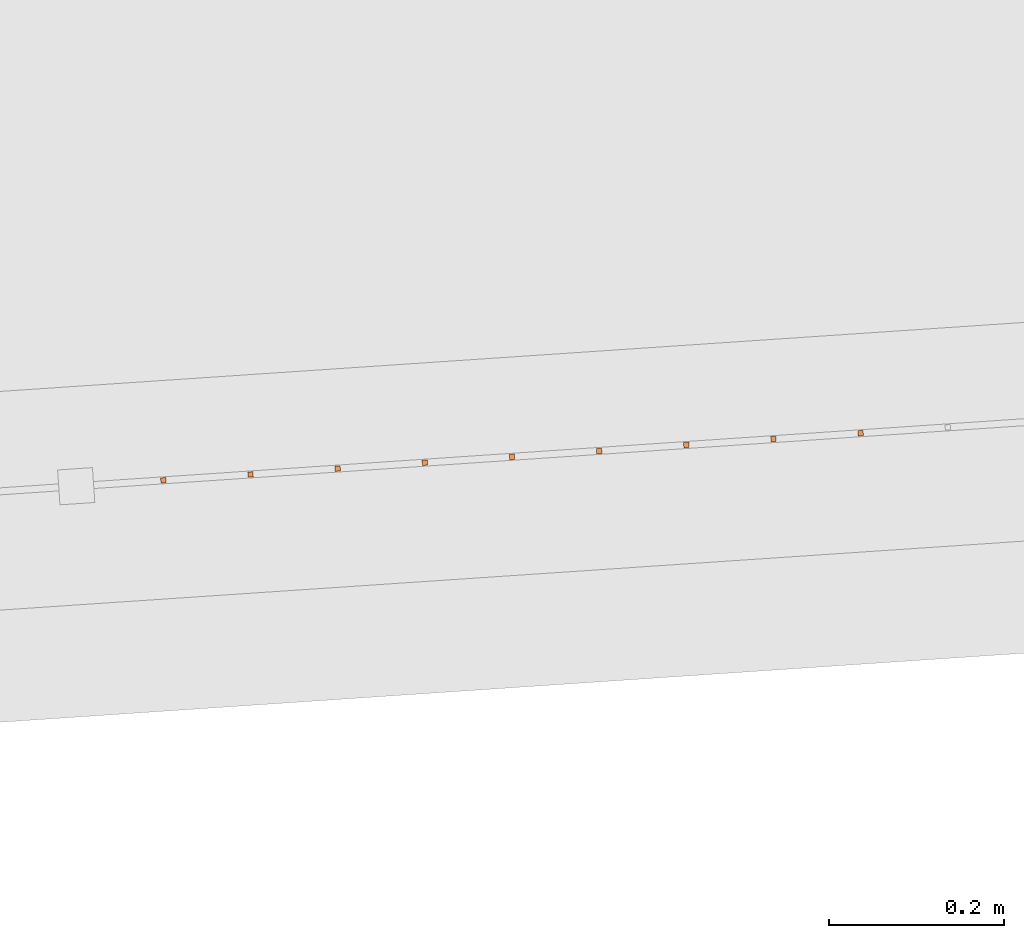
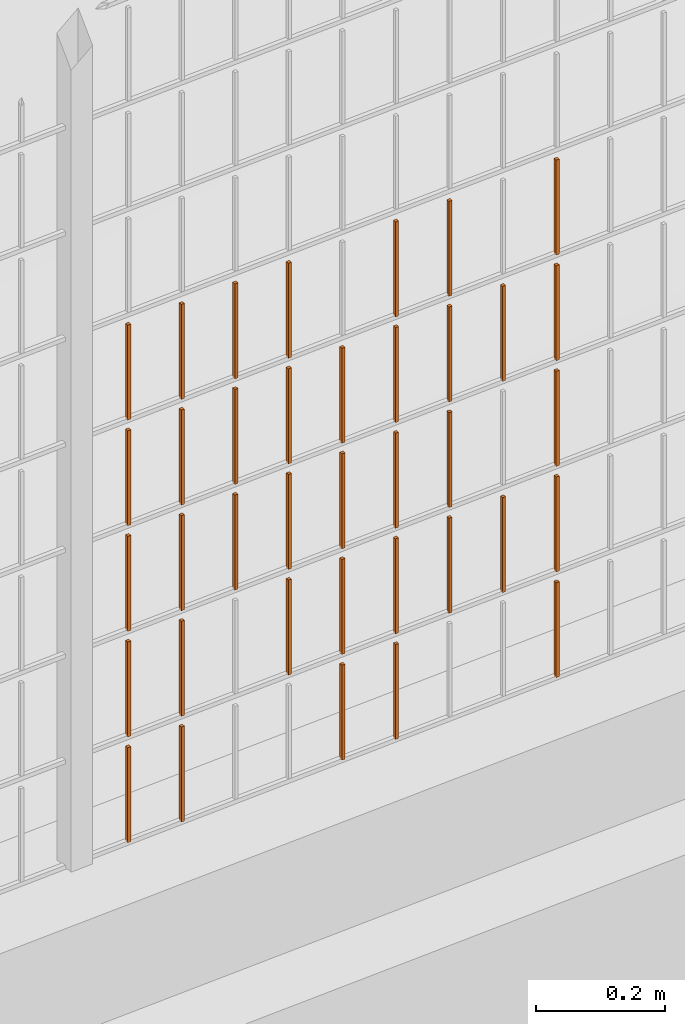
# One storey, part 140 of 1809: 37 proxies, 1 element without a shape of its own.
"""IFC2X3 building model written with IfcOpenShell, lengths in millimetres."""

from ifc_helpers import new_model, entity, si_unit, converted_unit, derived_unit, money_unit, direction, frame, origin_with_axes, place, context, subcontext, project, spatial, faceted_brep, source, transform, mapped, material, type_object, element, aggregate, save


model = new_model("IFC2X3")

# Units and contexts
model_context = context("Model", 3, precision=0.01, world=origin_with_axes(), true_north=direction((0.0, 1.0)))
body_context = subcontext(model_context, "Body", "Model", "MODEL_VIEW")
ifc_project = project(units=[si_unit("LENGTHUNIT", "METRE", prefix="MILLI"), si_unit("AREAUNIT", "SQUARE_METRE"), si_unit("VOLUMEUNIT", "CUBIC_METRE"), converted_unit("PLANEANGLEUNIT", "DEGREE", entity("IfcPlaneAngleMeasure", 0.0174532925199), si_unit("PLANEANGLEUNIT", "RADIAN"), dimensions=[0, 0, 0, 0, 0, 0, 0]), si_unit("SOLIDANGLEUNIT", "STERADIAN"), money_unit("EUR"), converted_unit("TIMEUNIT", "Year", entity("IfcTimeMeasure", 31556926.0), si_unit("TIMEUNIT", "SECOND"), dimensions=[0, 0, 1, 0, 0, 0, 0]), si_unit("MASSUNIT", "GRAM", prefix="KILO"), si_unit("THERMODYNAMICTEMPERATUREUNIT", "DEGREE_CELSIUS"), si_unit("LUMINOUSINTENSITYUNIT", "LUMEN"), si_unit("ENERGYUNIT", "JOULE", prefix="MEGA"), derived_unit("THERMALCONDUCTANCEUNIT", [(si_unit("POWERUNIT", "WATT"), 1), (si_unit("LENGTHUNIT", "METRE"), -1), (si_unit("THERMODYNAMICTEMPERATUREUNIT", "KELVIN"), -1)]), derived_unit("SPECIFICHEATCAPACITYUNIT", [(si_unit("ENERGYUNIT", "JOULE"), 1), (si_unit("MASSUNIT", "GRAM", prefix="KILO"), -1), (si_unit("THERMODYNAMICTEMPERATUREUNIT", "KELVIN"), -1)]), derived_unit("MASSDENSITYUNIT", [(si_unit("MASSUNIT", "GRAM", prefix="KILO"), 1), (si_unit("VOLUMEUNIT", "CUBIC_METRE"), -1)])], contexts=[model_context])

# Site, building, storey
site_placement = place(None, origin_with_axes())
site = spatial("IfcSite", under=ifc_project, at=site_placement, Name="Politse- ja Piirivalveameti ning Päästeameti ühishoone", CompositionType="ELEMENT")
building_placement = place(site_placement, origin_with_axes())
building = spatial("IfcBuilding", under=site, at=building_placement, Name="Politse- ja Piirivalveameti ning Päästeameti ühishoone", CompositionType="ELEMENT")
storey_placement = place(building_placement, origin_with_axes())
storey = spatial("IfcBuildingStorey", under=building, at=storey_placement, Name="Esimene korrus", CompositionType="ELEMENT", Elevation=0.0)

# Proxies
building_element_proxy_type_1 = type_object("IfcBuildingElementProxyType", Name="Railing Type", PredefinedType="NOTDEFINED")
proxy_1_placement = place(storey_placement, frame((89252.001212, -29183.4766571, 203.661247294), z_axis=(0.0, 0.0, 1.0), x_axis=(1.0, 0.0, 0.0)))
proxy_1 = element("IfcBuildingElementProxy", 1, at=proxy_1_placement, inside=storey, type_object=building_element_proxy_type_1, Name="PIIRDEAED")
ifc_material = material(Name="ET-03_Raud")
building_element_proxy_type_2 = type_object("IfcBuildingElementProxyType", Name="IfcBuildingElementProxy", PredefinedType="NOTDEFINED")
shared_shape_1 = source(origin_with_axes(), body_context, "Body", "Brep", [
    faceted_brep([(3.0, 3.0, -0.000752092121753), (-3.0, 3.0, -0.000752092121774), (-3.0, 3.0, 179.99926046), (3.0, 3.0, 179.99926046), (3.0, -3.0, 0.000752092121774), (-3.0, -3.0, 0.000752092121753), (-3.0, -3.0, 180.000764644), (3.0, -3.0, 180.000764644)], [[[0, 1, 2, 3]], [[0, 4, 5, 1]], [[1, 5, 6, 2]], [[3, 2, 6, 7]], [[4, 0, 3, 7]], [[5, 4, 7, 6]]]),
])
proxy_2_placement = place(proxy_1_placement, frame((-86928.6080785, -23169.4741806, 5.39195363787), z_axis=(0.0, 0.0, 1.0), x_axis=(1.0, 0.0, 0.0)))
proxy_2 = element("IfcBuildingElementProxy", 2, at=proxy_2_placement, type_object=building_element_proxy_type_2, material=ifc_material, Name="BALUSTER - 001", context=body_context, shape_type="MappedRepresentation", body=[
    mapped(shared_shape_1, transform((0.0, 0.0, 0.0), x_axis=(-0.0673926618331, 0.997726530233, 0.0), y_axis=(-0.997726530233, -0.0673926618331, 0.0), z_axis=(0.0, 0.0, 1.0))),
])
shared_shape_2 = source(origin_with_axes(), body_context, "Body", "Brep", [
    faceted_brep([(3.0, 3.0, -0.000752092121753), (-3.0, 3.0, -0.000752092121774), (-3.0, 3.0, 179.99926046), (3.0, 3.0, 179.99926046), (3.0, -3.0, 0.000752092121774), (-3.0, -3.0, 0.000752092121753), (-3.0, -3.0, 180.000764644), (3.0, -3.0, 180.000764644)], [[[0, 1, 2, 3]], [[0, 4, 5, 1]], [[1, 5, 6, 2]], [[3, 2, 6, 7]], [[4, 0, 3, 7]], [[5, 4, 7, 6]]]),
])
proxy_3_placement = place(proxy_1_placement, frame((-86230.1995073, -23122.2993173, 5.56744179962), z_axis=(0.0, 0.0, 1.0), x_axis=(1.0, 0.0, 0.0)))
proxy_3 = element("IfcBuildingElementProxy", 3, at=proxy_3_placement, type_object=building_element_proxy_type_2, material=ifc_material, Name="BALUSTER - 001", context=body_context, shape_type="MappedRepresentation", body=[
    mapped(shared_shape_2, transform((0.0, 0.0, 0.0), x_axis=(-0.0673926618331, 0.997726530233, 0.0), y_axis=(-0.997726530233, -0.0673926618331, 0.0), z_axis=(0.0, 0.0, 1.0))),
])
shared_shape_3 = source(origin_with_axes(), body_context, "Body", "Brep", [
    faceted_brep([(3.0, 3.0, -0.000752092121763), (-3.0, 3.0, -0.000752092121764), (-3.0, 3.0, 179.99926046), (3.0, 3.0, 179.99926046), (3.0, -3.0, 0.000752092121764), (-3.0, -3.0, 0.000752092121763), (-3.0, -3.0, 180.000764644), (3.0, -3.0, 180.000764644)], [[[0, 1, 2, 3]], [[0, 4, 5, 1]], [[1, 5, 6, 2]], [[3, 2, 6, 7]], [[4, 0, 3, 7]], [[5, 4, 7, 6]]]),
])
proxy_4_placement = place(proxy_1_placement, frame((-86529.5174664, -23142.5171158, 5.49223258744), z_axis=(0.0, 0.0, 1.0), x_axis=(1.0, 0.0, 0.0)))
proxy_4 = element("IfcBuildingElementProxy", 4, at=proxy_4_placement, type_object=building_element_proxy_type_2, material=ifc_material, Name="BALUSTER - 001", context=body_context, shape_type="MappedRepresentation", body=[
    mapped(shared_shape_3, transform((0.0, 0.0, 0.0), x_axis=(-0.0673926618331, 0.997726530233, 0.0), y_axis=(-0.997726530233, -0.0673926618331, 0.0), z_axis=(0.0, 0.0, 1.0))),
])
shared_shape_4 = source(origin_with_axes(), body_context, "Body", "Brep", [
    faceted_brep([(3.0, 3.0, -0.000752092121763), (-3.0, 3.0, -0.000752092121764), (-3.0, 3.0, 179.99926046), (3.0, 3.0, 179.99926046), (3.0, -3.0, 0.000752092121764), (-3.0, -3.0, 0.000752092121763), (-3.0, -3.0, 180.000764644), (3.0, -3.0, 180.000764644)], [[[0, 1, 2, 3]], [[0, 4, 5, 1]], [[1, 5, 6, 2]], [[3, 2, 6, 7]], [[4, 0, 3, 7]], [[5, 4, 7, 6]]]),
])
proxy_5_placement = place(proxy_1_placement, frame((-86629.2901194, -23149.256382, 5.46716285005), z_axis=(0.0, 0.0, 1.0), x_axis=(1.0, 0.0, 0.0)))
proxy_5 = element("IfcBuildingElementProxy", 5, at=proxy_5_placement, type_object=building_element_proxy_type_2, material=ifc_material, Name="BALUSTER - 001", context=body_context, shape_type="MappedRepresentation", body=[
    mapped(shared_shape_4, transform((0.0, 0.0, 0.0), x_axis=(-0.0673926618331, 0.997726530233, 0.0), y_axis=(-0.997726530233, -0.0673926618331, 0.0), z_axis=(0.0, 0.0, 1.0))),
])
proxy_6_placement = place(proxy_1_placement, frame((-86629.2901194, -23149.256382, 205.46716285), z_axis=(0.0, 0.0, 1.0), x_axis=(1.0, 0.0, 0.0)))
proxy_6 = element("IfcBuildingElementProxy", 6, at=proxy_6_placement, type_object=building_element_proxy_type_2, material=ifc_material, Name="BALUSTER - 001", context=body_context, shape_type="MappedRepresentation", body=[
    mapped(shared_shape_4, transform((0.0, 0.0, 0.0), x_axis=(-0.0673926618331, 0.997726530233, 0.0), y_axis=(-0.997726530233, -0.0673926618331, 0.0), z_axis=(0.0, 0.0, 1.0))),
])
shared_shape_5 = source(origin_with_axes(), body_context, "Body", "Brep", [
    faceted_brep([(3.0, 3.0, -0.000752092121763), (-3.0, 3.0, -0.000752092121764), (-3.0, 3.0, 179.99926046), (3.0, 3.0, 179.99926046), (3.0, -3.0, 0.000752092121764), (-3.0, -3.0, 0.000752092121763), (-3.0, -3.0, 180.000764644), (3.0, -3.0, 180.000764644)], [[[0, 1, 2, 3]], [[0, 4, 5, 1]], [[1, 5, 6, 2]], [[3, 2, 6, 7]], [[4, 0, 3, 7]], [[5, 4, 7, 6]]]),
])
proxy_7_placement = place(proxy_1_placement, frame((-87028.3807315, -23176.2134468, 5.36688390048), z_axis=(0.0, 0.0, 1.0), x_axis=(1.0, 0.0, 0.0)))
proxy_7 = element("IfcBuildingElementProxy", 7, at=proxy_7_placement, type_object=building_element_proxy_type_2, material=ifc_material, Name="BALUSTER - 001", context=body_context, shape_type="MappedRepresentation", body=[
    mapped(shared_shape_5, transform((0.0, 0.0, 0.0), x_axis=(-0.0673926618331, 0.997726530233, 0.0), y_axis=(-0.997726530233, -0.0673926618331, 0.0), z_axis=(0.0, 0.0, 1.0))),
])
shared_shape_6 = source(origin_with_axes(), body_context, "Body", "Brep", [
    faceted_brep([(3.0, 3.0, -0.000752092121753), (-3.0, 3.0, -0.000752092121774), (-3.0, 3.0, 179.99926046), (3.0, 3.0, 179.99926046), (3.0, -3.0, 0.000752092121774), (-3.0, -3.0, 0.000752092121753), (-3.0, -3.0, 180.000764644), (3.0, -3.0, 180.000764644)], [[[0, 1, 2, 3]], [[0, 4, 5, 1]], [[1, 5, 6, 2]], [[3, 2, 6, 7]], [[4, 0, 3, 7]], [[5, 4, 7, 6]]]),
])
proxy_8_placement = place(proxy_1_placement, frame((-86230.1995073, -23122.2993173, 205.5674418), z_axis=(0.0, 0.0, 1.0), x_axis=(1.0, 0.0, 0.0)))
proxy_8 = element("IfcBuildingElementProxy", 8, at=proxy_8_placement, type_object=building_element_proxy_type_2, material=ifc_material, Name="BALUSTER - 001", context=body_context, shape_type="MappedRepresentation", body=[
    mapped(shared_shape_6, transform((0.0, 0.0, 0.0), x_axis=(-0.0673926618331, 0.997726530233, 0.0), y_axis=(-0.997726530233, -0.0673926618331, 0.0), z_axis=(0.0, 0.0, 1.0))),
])
proxy_9_placement = place(proxy_1_placement, frame((-86429.7448134, -23135.7778497, 205.517302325), z_axis=(0.0, 0.0, 1.0), x_axis=(1.0, 0.0, 0.0)))
proxy_9 = element("IfcBuildingElementProxy", 9, at=proxy_9_placement, type_object=building_element_proxy_type_2, material=ifc_material, Name="BALUSTER - 001", context=body_context, shape_type="MappedRepresentation", body=[
    mapped(shared_shape_6, transform((0.0, 0.0, 0.0), x_axis=(-0.0673926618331, 0.997726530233, 0.0), y_axis=(-0.997726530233, -0.0673926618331, 0.0), z_axis=(0.0, 0.0, 1.0))),
])
proxy_10_placement = place(proxy_1_placement, frame((-86928.6080785, -23169.4741806, 205.391953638), z_axis=(0.0, 0.0, 1.0), x_axis=(1.0, 0.0, 0.0)))
proxy_10 = element("IfcBuildingElementProxy", 10, at=proxy_10_placement, type_object=building_element_proxy_type_2, material=ifc_material, Name="BALUSTER - 001", context=body_context, shape_type="MappedRepresentation", body=[
    mapped(shared_shape_6, transform((0.0, 0.0, 0.0), x_axis=(-0.0673926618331, 0.997726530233, 0.0), y_axis=(-0.997726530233, -0.0673926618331, 0.0), z_axis=(0.0, 0.0, 1.0))),
])
proxy_11_placement = place(proxy_1_placement, frame((-86230.1995073, -23122.2993173, 405.5674418), z_axis=(0.0, 0.0, 1.0), x_axis=(1.0, 0.0, 0.0)))
proxy_11 = element("IfcBuildingElementProxy", 11, at=proxy_11_placement, type_object=building_element_proxy_type_2, material=ifc_material, Name="BALUSTER - 001", context=body_context, shape_type="MappedRepresentation", body=[
    mapped(shared_shape_6, transform((0.0, 0.0, 0.0), x_axis=(-0.0673926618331, 0.997726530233, 0.0), y_axis=(-0.997726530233, -0.0673926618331, 0.0), z_axis=(0.0, 0.0, 1.0))),
])
proxy_12_placement = place(proxy_1_placement, frame((-86429.7448134, -23135.7778497, 405.517302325), z_axis=(0.0, 0.0, 1.0), x_axis=(1.0, 0.0, 0.0)))
proxy_12 = element("IfcBuildingElementProxy", 12, at=proxy_12_placement, type_object=building_element_proxy_type_2, material=ifc_material, Name="BALUSTER - 001", context=body_context, shape_type="MappedRepresentation", body=[
    mapped(shared_shape_6, transform((0.0, 0.0, 0.0), x_axis=(-0.0673926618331, 0.997726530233, 0.0), y_axis=(-0.997726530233, -0.0673926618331, 0.0), z_axis=(0.0, 0.0, 1.0))),
])
proxy_13_placement = place(proxy_1_placement, frame((-86928.6080785, -23169.4741806, 405.391953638), z_axis=(0.0, 0.0, 1.0), x_axis=(1.0, 0.0, 0.0)))
proxy_13 = element("IfcBuildingElementProxy", 13, at=proxy_13_placement, type_object=building_element_proxy_type_2, material=ifc_material, Name="BALUSTER - 001", context=body_context, shape_type="MappedRepresentation", body=[
    mapped(shared_shape_6, transform((0.0, 0.0, 0.0), x_axis=(-0.0673926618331, 0.997726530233, 0.0), y_axis=(-0.997726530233, -0.0673926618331, 0.0), z_axis=(0.0, 0.0, 1.0))),
])
proxy_14_placement = place(proxy_1_placement, frame((-86230.1995073, -23122.2993173, 605.5674418), z_axis=(0.0, 0.0, 1.0), x_axis=(1.0, 0.0, 0.0)))
proxy_14 = element("IfcBuildingElementProxy", 14, at=proxy_14_placement, type_object=building_element_proxy_type_2, material=ifc_material, Name="BALUSTER - 001", context=body_context, shape_type="MappedRepresentation", body=[
    mapped(shared_shape_6, transform((0.0, 0.0, 0.0), x_axis=(-0.0673926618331, 0.997726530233, 0.0), y_axis=(-0.997726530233, -0.0673926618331, 0.0), z_axis=(0.0, 0.0, 1.0))),
])
proxy_15_placement = place(proxy_1_placement, frame((-86928.6080785, -23169.4741806, 605.391953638), z_axis=(0.0, 0.0, 1.0), x_axis=(1.0, 0.0, 0.0)))
proxy_15 = element("IfcBuildingElementProxy", 15, at=proxy_15_placement, type_object=building_element_proxy_type_2, material=ifc_material, Name="BALUSTER - 001", context=body_context, shape_type="MappedRepresentation", body=[
    mapped(shared_shape_6, transform((0.0, 0.0, 0.0), x_axis=(-0.0673926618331, 0.997726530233, 0.0), y_axis=(-0.997726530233, -0.0673926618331, 0.0), z_axis=(0.0, 0.0, 1.0))),
])
shared_shape_7 = source(origin_with_axes(), body_context, "Body", "Brep", [
    faceted_brep([(3.0, 3.0, -0.000752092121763), (-3.0, 3.0, -0.000752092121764), (-3.0, 3.0, 179.99926046), (3.0, 3.0, 179.99926046), (3.0, -3.0, 0.000752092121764), (-3.0, -3.0, 0.000752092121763), (-3.0, -3.0, 180.000764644), (3.0, -3.0, 180.000764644)], [[[0, 1, 2, 3]], [[0, 4, 5, 1]], [[1, 5, 6, 2]], [[3, 2, 6, 7]], [[4, 0, 3, 7]], [[5, 4, 7, 6]]]),
])
proxy_16_placement = place(proxy_1_placement, frame((-87028.3807315, -23176.2134468, 405.3668839), z_axis=(0.0, 0.0, 1.0), x_axis=(1.0, 0.0, 0.0)))
proxy_16 = element("IfcBuildingElementProxy", 16, at=proxy_16_placement, type_object=building_element_proxy_type_2, material=ifc_material, Name="BALUSTER - 001", context=body_context, shape_type="MappedRepresentation", body=[
    mapped(shared_shape_7, transform((0.0, 0.0, 0.0), x_axis=(-0.0673926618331, 0.997726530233, 0.0), y_axis=(-0.997726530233, -0.0673926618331, 0.0), z_axis=(0.0, 0.0, 1.0))),
])
shared_shape_8 = source(origin_with_axes(), body_context, "Body", "Brep", [
    faceted_brep([(3.0, 3.0, -0.000752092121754), (-3.0, 3.0, -0.000752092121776), (-3.0, 3.0, 179.99926046), (3.0, 3.0, 179.99926046), (3.0, -3.0, 0.000752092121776), (-3.0, -3.0, 0.000752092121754), (-3.0, -3.0, 180.000764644), (3.0, -3.0, 180.000764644)], [[[0, 1, 2, 3]], [[0, 4, 5, 1]], [[1, 5, 6, 2]], [[3, 2, 6, 7]], [[4, 0, 3, 7]], [[5, 4, 7, 6]]]),
])
proxy_17_placement = place(proxy_1_placement, frame((-86329.9721603, -23129.0385835, 205.542372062), z_axis=(0.0, 0.0, 1.0), x_axis=(1.0, 0.0, 0.0)))
proxy_17 = element("IfcBuildingElementProxy", 17, at=proxy_17_placement, type_object=building_element_proxy_type_2, material=ifc_material, Name="BALUSTER - 001", context=body_context, shape_type="MappedRepresentation", body=[
    mapped(shared_shape_8, transform((0.0, 0.0, 0.0), x_axis=(-0.0673926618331, 0.997726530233, 0.0), y_axis=(-0.997726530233, -0.0673926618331, 0.0), z_axis=(0.0, 0.0, 1.0))),
])
proxy_18_placement = place(proxy_1_placement, frame((-86329.9721603, -23129.0385835, 605.542372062), z_axis=(0.0, 0.0, 1.0), x_axis=(1.0, 0.0, 0.0)))
proxy_18 = element("IfcBuildingElementProxy", 18, at=proxy_18_placement, type_object=building_element_proxy_type_2, material=ifc_material, Name="BALUSTER - 001", context=body_context, shape_type="MappedRepresentation", body=[
    mapped(shared_shape_8, transform((0.0, 0.0, 0.0), x_axis=(-0.0673926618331, 0.997726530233, 0.0), y_axis=(-0.997726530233, -0.0673926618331, 0.0), z_axis=(0.0, 0.0, 1.0))),
])
shared_shape_9 = source(origin_with_axes(), body_context, "Body", "Brep", [
    faceted_brep([(3.0, 3.0, -0.000752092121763), (-3.0, 3.0, -0.000752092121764), (-3.0, 3.0, 179.99926046), (3.0, 3.0, 179.99926046), (3.0, -3.0, 0.000752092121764), (-3.0, -3.0, 0.000752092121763), (-3.0, -3.0, 180.000764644), (3.0, -3.0, 180.000764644)], [[[0, 1, 2, 3]], [[0, 4, 5, 1]], [[1, 5, 6, 2]], [[3, 2, 6, 7]], [[4, 0, 3, 7]], [[5, 4, 7, 6]]]),
])
proxy_19_placement = place(proxy_1_placement, frame((-86529.5174664, -23142.5171158, 205.492232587), z_axis=(0.0, 0.0, 1.0), x_axis=(1.0, 0.0, 0.0)))
proxy_19 = element("IfcBuildingElementProxy", 19, at=proxy_19_placement, type_object=building_element_proxy_type_2, material=ifc_material, Name="BALUSTER - 001", context=body_context, shape_type="MappedRepresentation", body=[
    mapped(shared_shape_9, transform((0.0, 0.0, 0.0), x_axis=(-0.0673926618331, 0.997726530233, 0.0), y_axis=(-0.997726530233, -0.0673926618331, 0.0), z_axis=(0.0, 0.0, 1.0))),
])
shared_shape_10 = source(origin_with_axes(), body_context, "Body", "Brep", [
    faceted_brep([(3.0, 3.0, -0.000752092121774), (-3.0, 3.0, -0.000752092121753), (-3.0, 3.0, 179.99926046), (3.0, 3.0, 179.99926046), (3.0, -3.0, 0.000752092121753), (-3.0, -3.0, 0.000752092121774), (-3.0, -3.0, 180.000764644), (3.0, -3.0, 180.000764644)], [[[0, 1, 2, 3]], [[0, 4, 5, 1]], [[1, 5, 6, 2]], [[3, 2, 6, 7]], [[4, 0, 3, 7]], [[5, 4, 7, 6]]]),
])
proxy_20_placement = place(proxy_1_placement, frame((-86729.0627724, -23155.9956482, 205.442093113), z_axis=(0.0, 0.0, 1.0), x_axis=(1.0, 0.0, 0.0)))
proxy_20 = element("IfcBuildingElementProxy", 20, at=proxy_20_placement, type_object=building_element_proxy_type_2, material=ifc_material, Name="BALUSTER - 001", context=body_context, shape_type="MappedRepresentation", body=[
    mapped(shared_shape_10, transform((0.0, 0.0, 0.0), x_axis=(-0.0673926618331, 0.997726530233, 0.0), y_axis=(-0.997726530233, -0.0673926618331, 0.0), z_axis=(0.0, 0.0, 1.0))),
])
shared_shape_11 = source(origin_with_axes(), body_context, "Body", "Brep", [
    faceted_brep([(3.0, 3.0, -0.000752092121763), (-3.0, 3.0, -0.000752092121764), (-3.0, 3.0, 179.99926046), (3.0, 3.0, 179.99926046), (3.0, -3.0, 0.000752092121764), (-3.0, -3.0, 0.000752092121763), (-3.0, -3.0, 180.000764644), (3.0, -3.0, 180.000764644)], [[[0, 1, 2, 3]], [[0, 4, 5, 1]], [[1, 5, 6, 2]], [[3, 2, 6, 7]], [[4, 0, 3, 7]], [[5, 4, 7, 6]]]),
])
proxy_21_placement = place(proxy_1_placement, frame((-87028.3807315, -23176.2134468, 205.3668839), z_axis=(0.0, 0.0, 1.0), x_axis=(1.0, 0.0, 0.0)))
proxy_21 = element("IfcBuildingElementProxy", 21, at=proxy_21_placement, type_object=building_element_proxy_type_2, material=ifc_material, Name="BALUSTER - 001", context=body_context, shape_type="MappedRepresentation", body=[
    mapped(shared_shape_11, transform((0.0, 0.0, 0.0), x_axis=(-0.0673926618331, 0.997726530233, 0.0), y_axis=(-0.997726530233, -0.0673926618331, 0.0), z_axis=(0.0, 0.0, 1.0))),
])
proxy_22_placement = place(proxy_1_placement, frame((-86529.5174664, -23142.5171158, 405.492232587), z_axis=(0.0, 0.0, 1.0), x_axis=(1.0, 0.0, 0.0)))
proxy_22 = element("IfcBuildingElementProxy", 22, at=proxy_22_placement, type_object=building_element_proxy_type_2, material=ifc_material, Name="BALUSTER - 001", context=body_context, shape_type="MappedRepresentation", body=[
    mapped(shared_shape_11, transform((0.0, 0.0, 0.0), x_axis=(-0.0673926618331, 0.997726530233, 0.0), y_axis=(-0.997726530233, -0.0673926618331, 0.0), z_axis=(0.0, 0.0, 1.0))),
])
proxy_23_placement = place(proxy_1_placement, frame((-86529.5174664, -23142.5171158, 605.492232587), z_axis=(0.0, 0.0, 1.0), x_axis=(1.0, 0.0, 0.0)))
proxy_23 = element("IfcBuildingElementProxy", 23, at=proxy_23_placement, type_object=building_element_proxy_type_2, material=ifc_material, Name="BALUSTER - 001", context=body_context, shape_type="MappedRepresentation", body=[
    mapped(shared_shape_11, transform((0.0, 0.0, 0.0), x_axis=(-0.0673926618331, 0.997726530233, 0.0), y_axis=(-0.997726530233, -0.0673926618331, 0.0), z_axis=(0.0, 0.0, 1.0))),
])
proxy_24_placement = place(proxy_1_placement, frame((-87028.3807315, -23176.2134468, 605.3668839), z_axis=(0.0, 0.0, 1.0), x_axis=(1.0, 0.0, 0.0)))
proxy_24 = element("IfcBuildingElementProxy", 24, at=proxy_24_placement, type_object=building_element_proxy_type_2, material=ifc_material, Name="BALUSTER - 001", context=body_context, shape_type="MappedRepresentation", body=[
    mapped(shared_shape_11, transform((0.0, 0.0, 0.0), x_axis=(-0.0673926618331, 0.997726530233, 0.0), y_axis=(-0.997726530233, -0.0673926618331, 0.0), z_axis=(0.0, 0.0, 1.0))),
])
shared_shape_12 = source(origin_with_axes(), body_context, "Body", "Brep", [
    faceted_brep([(3.0, 3.0, -0.000752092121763), (-3.0, 3.0, -0.000752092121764), (-3.0, 3.0, 179.99926046), (3.0, 3.0, 179.99926046), (3.0, -3.0, 0.000752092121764), (-3.0, -3.0, 0.000752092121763), (-3.0, -3.0, 180.000764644), (3.0, -3.0, 180.000764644)], [[[0, 1, 2, 3]], [[0, 4, 5, 1]], [[1, 5, 6, 2]], [[3, 2, 6, 7]], [[4, 0, 3, 7]], [[5, 4, 7, 6]]]),
])
proxy_25_placement = place(proxy_1_placement, frame((-86629.2901194, -23149.256382, 405.46716285), z_axis=(0.0, 0.0, 1.0), x_axis=(1.0, 0.0, 0.0)))
proxy_25 = element("IfcBuildingElementProxy", 25, at=proxy_25_placement, type_object=building_element_proxy_type_2, material=ifc_material, Name="BALUSTER - 001", context=body_context, shape_type="MappedRepresentation", body=[
    mapped(shared_shape_12, transform((0.0, 0.0, 0.0), x_axis=(-0.0673926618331, 0.997726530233, 0.0), y_axis=(-0.997726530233, -0.0673926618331, 0.0), z_axis=(0.0, 0.0, 1.0))),
])
shared_shape_13 = source(origin_with_axes(), body_context, "Body", "Brep", [
    faceted_brep([(3.0, 3.0, -0.000752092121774), (-3.0, 3.0, -0.000752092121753), (-3.0, 3.0, 179.99926046), (3.0, 3.0, 179.99926046), (3.0, -3.0, 0.000752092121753), (-3.0, -3.0, 0.000752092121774), (-3.0, -3.0, 180.000764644), (3.0, -3.0, 180.000764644)], [[[0, 1, 2, 3]], [[0, 4, 5, 1]], [[1, 5, 6, 2]], [[3, 2, 6, 7]], [[4, 0, 3, 7]], [[5, 4, 7, 6]]]),
])
proxy_26_placement = place(proxy_1_placement, frame((-86729.0627724, -23155.9956482, 405.442093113), z_axis=(0.0, 0.0, 1.0), x_axis=(1.0, 0.0, 0.0)))
proxy_26 = element("IfcBuildingElementProxy", 26, at=proxy_26_placement, type_object=building_element_proxy_type_2, material=ifc_material, Name="BALUSTER - 001", context=body_context, shape_type="MappedRepresentation", body=[
    mapped(shared_shape_13, transform((0.0, 0.0, 0.0), x_axis=(-0.0673926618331, 0.997726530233, 0.0), y_axis=(-0.997726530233, -0.0673926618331, 0.0), z_axis=(0.0, 0.0, 1.0))),
])
shared_shape_14 = source(origin_with_axes(), body_context, "Body", "Brep", [
    faceted_brep([(3.0, 3.0, -0.000752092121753), (-3.0, 3.0, -0.000752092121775), (-3.0, 3.0, 179.99926046), (3.0, 3.0, 179.99926046), (3.0, -3.0, 0.000752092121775), (-3.0, -3.0, 0.000752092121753), (-3.0, -3.0, 180.000764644), (3.0, -3.0, 180.000764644)], [[[0, 1, 2, 3]], [[0, 4, 5, 1]], [[1, 5, 6, 2]], [[3, 2, 6, 7]], [[4, 0, 3, 7]], [[5, 4, 7, 6]]]),
])
proxy_27_placement = place(proxy_1_placement, frame((-86828.8354255, -23162.7349144, 405.417023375), z_axis=(0.0, 0.0, 1.0), x_axis=(1.0, 0.0, 0.0)))
proxy_27 = element("IfcBuildingElementProxy", 27, at=proxy_27_placement, type_object=building_element_proxy_type_2, material=ifc_material, Name="BALUSTER - 001", context=body_context, shape_type="MappedRepresentation", body=[
    mapped(shared_shape_14, transform((0.0, 0.0, 0.0), x_axis=(-0.0673926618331, 0.997726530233, 0.0), y_axis=(-0.997726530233, -0.0673926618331, 0.0), z_axis=(0.0, 0.0, 1.0))),
])
proxy_28_placement = place(proxy_1_placement, frame((-86828.8354255, -23162.7349144, 605.417023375), z_axis=(0.0, 0.0, 1.0), x_axis=(1.0, 0.0, 0.0)))
proxy_28 = element("IfcBuildingElementProxy", 28, at=proxy_28_placement, type_object=building_element_proxy_type_2, material=ifc_material, Name="BALUSTER - 001", context=body_context, shape_type="MappedRepresentation", body=[
    mapped(shared_shape_14, transform((0.0, 0.0, 0.0), x_axis=(-0.0673926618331, 0.997726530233, 0.0), y_axis=(-0.997726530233, -0.0673926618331, 0.0), z_axis=(0.0, 0.0, 1.0))),
])
shared_shape_15 = source(origin_with_axes(), body_context, "Body", "Brep", [
    faceted_brep([(3.0, 3.0, -0.000752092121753), (-3.0, 3.0, -0.000752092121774), (-3.0, 3.0, 179.99926046), (3.0, 3.0, 179.99926046), (3.0, -3.0, 0.000752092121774), (-3.0, -3.0, 0.000752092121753), (-3.0, -3.0, 180.000764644), (3.0, -3.0, 180.000764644)], [[[0, 1, 2, 3]], [[0, 4, 5, 1]], [[1, 5, 6, 2]], [[3, 2, 6, 7]], [[4, 0, 3, 7]], [[5, 4, 7, 6]]]),
])
proxy_29_placement = place(proxy_1_placement, frame((-86429.7448134, -23135.7778497, 605.517302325), z_axis=(0.0, 0.0, 1.0), x_axis=(1.0, 0.0, 0.0)))
proxy_29 = element("IfcBuildingElementProxy", 29, at=proxy_29_placement, type_object=building_element_proxy_type_2, material=ifc_material, Name="BALUSTER - 001", context=body_context, shape_type="MappedRepresentation", body=[
    mapped(shared_shape_15, transform((0.0, 0.0, 0.0), x_axis=(-0.0673926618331, 0.997726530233, 0.0), y_axis=(-0.997726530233, -0.0673926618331, 0.0), z_axis=(0.0, 0.0, 1.0))),
])
shared_shape_16 = source(origin_with_axes(), body_context, "Body", "Brep", [
    faceted_brep([(3.0, 3.0, -0.000752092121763), (-3.0, 3.0, -0.000752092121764), (-3.0, 3.0, 179.99926046), (3.0, 3.0, 179.99926046), (3.0, -3.0, 0.000752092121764), (-3.0, -3.0, 0.000752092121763), (-3.0, -3.0, 180.000764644), (3.0, -3.0, 180.000764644)], [[[0, 1, 2, 3]], [[0, 4, 5, 1]], [[1, 5, 6, 2]], [[3, 2, 6, 7]], [[4, 0, 3, 7]], [[5, 4, 7, 6]]]),
])
proxy_30_placement = place(proxy_1_placement, frame((-86629.2901194, -23149.256382, 605.46716285), z_axis=(0.0, 0.0, 1.0), x_axis=(1.0, 0.0, 0.0)))
proxy_30 = element("IfcBuildingElementProxy", 30, at=proxy_30_placement, type_object=building_element_proxy_type_2, material=ifc_material, Name="BALUSTER - 001", context=body_context, shape_type="MappedRepresentation", body=[
    mapped(shared_shape_16, transform((0.0, 0.0, 0.0), x_axis=(-0.0673926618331, 0.997726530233, 0.0), y_axis=(-0.997726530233, -0.0673926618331, 0.0), z_axis=(0.0, 0.0, 1.0))),
])
shared_shape_17 = source(origin_with_axes(), body_context, "Body", "Brep", [
    faceted_brep([(3.0, 3.0, -0.000752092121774), (-3.0, 3.0, -0.000752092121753), (-3.0, 3.0, 179.99926046), (3.0, 3.0, 179.99926046), (3.0, -3.0, 0.000752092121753), (-3.0, -3.0, 0.000752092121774), (-3.0, -3.0, 180.000764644), (3.0, -3.0, 180.000764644)], [[[0, 1, 2, 3]], [[0, 4, 5, 1]], [[1, 5, 6, 2]], [[3, 2, 6, 7]], [[4, 0, 3, 7]], [[5, 4, 7, 6]]]),
])
proxy_31_placement = place(proxy_1_placement, frame((-86729.0627724, -23155.9956482, 605.442093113), z_axis=(0.0, 0.0, 1.0), x_axis=(1.0, 0.0, 0.0)))
proxy_31 = element("IfcBuildingElementProxy", 31, at=proxy_31_placement, type_object=building_element_proxy_type_2, material=ifc_material, Name="BALUSTER - 001", context=body_context, shape_type="MappedRepresentation", body=[
    mapped(shared_shape_17, transform((0.0, 0.0, 0.0), x_axis=(-0.0673926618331, 0.997726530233, 0.0), y_axis=(-0.997726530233, -0.0673926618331, 0.0), z_axis=(0.0, 0.0, 1.0))),
])
shared_shape_18 = source(origin_with_axes(), body_context, "Body", "Brep", [
    faceted_brep([(3.0, 3.0, -0.000752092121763), (-3.0, 3.0, -0.000752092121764), (-3.0, 3.0, 179.99926046), (3.0, 3.0, 179.99926046), (3.0, -3.0, 0.000752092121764), (-3.0, -3.0, 0.000752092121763), (-3.0, -3.0, 180.000764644), (3.0, -3.0, 180.000764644)], [[[0, 1, 2, 3]], [[0, 4, 5, 1]], [[1, 5, 6, 2]], [[3, 2, 6, 7]], [[4, 0, 3, 7]], [[5, 4, 7, 6]]]),
])
proxy_32_placement = place(proxy_1_placement, frame((-86529.5174664, -23142.5171158, 805.492232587), z_axis=(0.0, 0.0, 1.0), x_axis=(1.0, 0.0, 0.0)))
proxy_32 = element("IfcBuildingElementProxy", 32, at=proxy_32_placement, type_object=building_element_proxy_type_2, material=ifc_material, Name="BALUSTER - 001", context=body_context, shape_type="MappedRepresentation", body=[
    mapped(shared_shape_18, transform((0.0, 0.0, 0.0), x_axis=(-0.0673926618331, 0.997726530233, 0.0), y_axis=(-0.997726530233, -0.0673926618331, 0.0), z_axis=(0.0, 0.0, 1.0))),
])
shared_shape_19 = source(origin_with_axes(), body_context, "Body", "Brep", [
    faceted_brep([(3.0, 3.0, -0.000752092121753), (-3.0, 3.0, -0.000752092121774), (-3.0, 3.0, 179.99926046), (3.0, 3.0, 179.99926046), (3.0, -3.0, 0.000752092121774), (-3.0, -3.0, 0.000752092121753), (-3.0, -3.0, 180.000764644), (3.0, -3.0, 180.000764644)], [[[0, 1, 2, 3]], [[0, 4, 5, 1]], [[1, 5, 6, 2]], [[3, 2, 6, 7]], [[4, 0, 3, 7]], [[5, 4, 7, 6]]]),
])
proxy_33_placement = place(proxy_1_placement, frame((-86230.1995073, -23122.2993173, 805.5674418), z_axis=(0.0, 0.0, 1.0), x_axis=(1.0, 0.0, 0.0)))
proxy_33 = element("IfcBuildingElementProxy", 33, at=proxy_33_placement, type_object=building_element_proxy_type_2, material=ifc_material, Name="BALUSTER - 001", context=body_context, shape_type="MappedRepresentation", body=[
    mapped(shared_shape_19, transform((0.0, 0.0, 0.0), x_axis=(-0.0673926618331, 0.997726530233, 0.0), y_axis=(-0.997726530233, -0.0673926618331, 0.0), z_axis=(0.0, 0.0, 1.0))),
])
proxy_34_placement = place(proxy_1_placement, frame((-86928.6080785, -23169.4741806, 805.391953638), z_axis=(0.0, 0.0, 1.0), x_axis=(1.0, 0.0, 0.0)))
proxy_34 = element("IfcBuildingElementProxy", 34, at=proxy_34_placement, type_object=building_element_proxy_type_2, material=ifc_material, Name="BALUSTER - 001", context=body_context, shape_type="MappedRepresentation", body=[
    mapped(shared_shape_19, transform((0.0, 0.0, 0.0), x_axis=(-0.0673926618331, 0.997726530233, 0.0), y_axis=(-0.997726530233, -0.0673926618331, 0.0), z_axis=(0.0, 0.0, 1.0))),
])
shared_shape_20 = source(origin_with_axes(), body_context, "Body", "Brep", [
    faceted_brep([(3.0, 3.0, -0.000752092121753), (-3.0, 3.0, -0.000752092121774), (-3.0, 3.0, 179.99926046), (3.0, 3.0, 179.99926046), (3.0, -3.0, 0.000752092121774), (-3.0, -3.0, 0.000752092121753), (-3.0, -3.0, 180.000764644), (3.0, -3.0, 180.000764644)], [[[0, 1, 2, 3]], [[0, 4, 5, 1]], [[1, 5, 6, 2]], [[3, 2, 6, 7]], [[4, 0, 3, 7]], [[5, 4, 7, 6]]]),
])
proxy_35_placement = place(proxy_1_placement, frame((-86429.7448134, -23135.7778497, 805.517302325), z_axis=(0.0, 0.0, 1.0), x_axis=(1.0, 0.0, 0.0)))
proxy_35 = element("IfcBuildingElementProxy", 35, at=proxy_35_placement, type_object=building_element_proxy_type_2, material=ifc_material, Name="BALUSTER - 001", context=body_context, shape_type="MappedRepresentation", body=[
    mapped(shared_shape_20, transform((0.0, 0.0, 0.0), x_axis=(-0.0673926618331, 0.997726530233, 0.0), y_axis=(-0.997726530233, -0.0673926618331, 0.0), z_axis=(0.0, 0.0, 1.0))),
])
shared_shape_21 = source(origin_with_axes(), body_context, "Body", "Brep", [
    faceted_brep([(3.0, 3.0, -0.000752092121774), (-3.0, 3.0, -0.000752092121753), (-3.0, 3.0, 179.99926046), (3.0, 3.0, 179.99926046), (3.0, -3.0, 0.000752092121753), (-3.0, -3.0, 0.000752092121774), (-3.0, -3.0, 180.000764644), (3.0, -3.0, 180.000764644)], [[[0, 1, 2, 3]], [[0, 4, 5, 1]], [[1, 5, 6, 2]], [[3, 2, 6, 7]], [[4, 0, 3, 7]], [[5, 4, 7, 6]]]),
])
proxy_36_placement = place(proxy_1_placement, frame((-86729.0627724, -23155.9956482, 805.442093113), z_axis=(0.0, 0.0, 1.0), x_axis=(1.0, 0.0, 0.0)))
proxy_36 = element("IfcBuildingElementProxy", 36, at=proxy_36_placement, type_object=building_element_proxy_type_2, material=ifc_material, Name="BALUSTER - 001", context=body_context, shape_type="MappedRepresentation", body=[
    mapped(shared_shape_21, transform((0.0, 0.0, 0.0), x_axis=(-0.0673926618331, 0.997726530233, 0.0), y_axis=(-0.997726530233, -0.0673926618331, 0.0), z_axis=(0.0, 0.0, 1.0))),
])
shared_shape_22 = source(origin_with_axes(), body_context, "Body", "Brep", [
    faceted_brep([(3.0, 3.0, -0.000752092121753), (-3.0, 3.0, -0.000752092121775), (-3.0, 3.0, 179.99926046), (3.0, 3.0, 179.99926046), (3.0, -3.0, 0.000752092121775), (-3.0, -3.0, 0.000752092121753), (-3.0, -3.0, 180.000764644), (3.0, -3.0, 180.000764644)], [[[0, 1, 2, 3]], [[0, 4, 5, 1]], [[1, 5, 6, 2]], [[3, 2, 6, 7]], [[4, 0, 3, 7]], [[5, 4, 7, 6]]]),
])
proxy_37_placement = place(proxy_1_placement, frame((-86828.8354255, -23162.7349144, 805.417023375), z_axis=(0.0, 0.0, 1.0), x_axis=(1.0, 0.0, 0.0)))
proxy_37 = element("IfcBuildingElementProxy", 37, at=proxy_37_placement, type_object=building_element_proxy_type_2, material=ifc_material, Name="BALUSTER - 001", context=body_context, shape_type="MappedRepresentation", body=[
    mapped(shared_shape_22, transform((0.0, 0.0, 0.0), x_axis=(-0.0673926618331, 0.997726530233, 0.0), y_axis=(-0.997726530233, -0.0673926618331, 0.0), z_axis=(0.0, 0.0, 1.0))),
])
shared_shape_23 = source(origin_with_axes(), body_context, "Body", "Brep", [
    faceted_brep([(3.0, 3.0, -0.000752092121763), (-3.0, 3.0, -0.000752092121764), (-3.0, 3.0, 179.99926046), (3.0, 3.0, 179.99926046), (3.0, -3.0, 0.000752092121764), (-3.0, -3.0, 0.000752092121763), (-3.0, -3.0, 180.000764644), (3.0, -3.0, 180.000764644)], [[[0, 1, 2, 3]], [[0, 4, 5, 1]], [[1, 5, 6, 2]], [[3, 2, 6, 7]], [[4, 0, 3, 7]], [[5, 4, 7, 6]]]),
])
proxy_38_placement = place(proxy_1_placement, frame((-87028.3807315, -23176.2134468, 805.3668839), z_axis=(0.0, 0.0, 1.0), x_axis=(1.0, 0.0, 0.0)))
proxy_38 = element("IfcBuildingElementProxy", 38, at=proxy_38_placement, type_object=building_element_proxy_type_2, material=ifc_material, Name="BALUSTER - 001", context=body_context, shape_type="MappedRepresentation", body=[
    mapped(shared_shape_23, transform((0.0, 0.0, 0.0), x_axis=(-0.0673926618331, 0.997726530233, 0.0), y_axis=(-0.997726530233, -0.0673926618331, 0.0), z_axis=(0.0, 0.0, 1.0))),
])
aggregate(proxy_1, [proxy_3, proxy_4, proxy_5, proxy_2, proxy_7, proxy_8, proxy_17, proxy_9, proxy_19, proxy_6, proxy_20, proxy_10, proxy_21, proxy_11, proxy_12, proxy_22, proxy_25, proxy_26, proxy_27, proxy_13, proxy_16, proxy_14, proxy_18, proxy_29, proxy_23, proxy_30, proxy_31, proxy_28, proxy_15, proxy_24, proxy_33, proxy_35, proxy_32, proxy_36, proxy_37, proxy_34, proxy_38])

save(model, "model.ifc")
